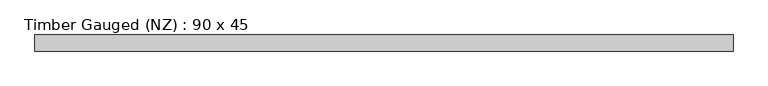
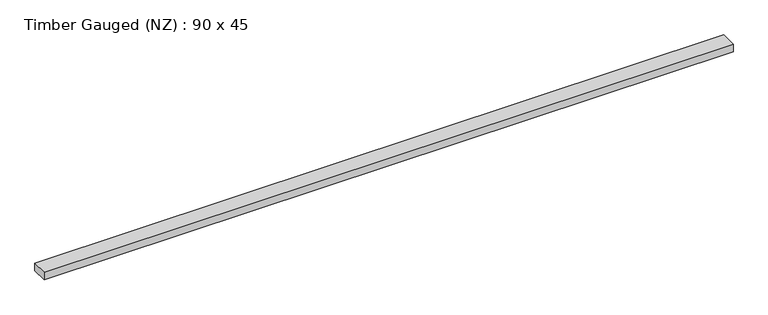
"""IFC4 building model written with IfcOpenShell, lengths in millimetres: beam geometry, Timber Gauged (NZ) : 90 x 45."""

from ifc_helpers import new_model, si_unit, frame, origin, place, context, project, spatial, polyline, outline, extrude, source, transform, mapped, element, save


def timber_gauged_nz_90_x_45_22b23b48(model_context):
    return source(origin(), model_context, "Body", "SweptSolid", [
        extrude(outline(polyline([(1944.3169862, 45.0), (1944.3169862, -45.0), (-1944.3169862, -45.0), (-1944.3169862, 45.0), (1944.3169862, 45.0)])), frame((0.0, 0.0, -22.5), z_axis=(0.0, 0.0, 1.0), x_axis=(1.0, 0.0, 0.0)), (0.0, 0.0, 1.0), 45.0),
    ])


if __name__ == "__main__":
    model = new_model("IFC4")
    model_context = context("Model", 3, world=origin())
    ifc_project = project(units=[si_unit("LENGTHUNIT", "METRE", prefix="MILLI")], contexts=[model_context])
    site = spatial("IfcSite", under=ifc_project)
    building = spatial("IfcBuilding", under=site)
    placement = place(None, origin())
    timber_gauged_nz_90_x_45_shape = timber_gauged_nz_90_x_45_22b23b48(model_context)
    element("IfcBeam", 1, ObjectType="Timber Gauged (NZ) : 90 x 45", at=placement, inside=building, context=model_context, shape_type="MappedRepresentation", body=[
        mapped(timber_gauged_nz_90_x_45_shape, transform((0.0, 0.0, 0.0), x_axis=(1.0, 0.0, 0.0), y_axis=(0.0, 1.0, 0.0), z_axis=(0.0, 0.0, 1.0))),
    ])
    save(model, "model.ifc")
